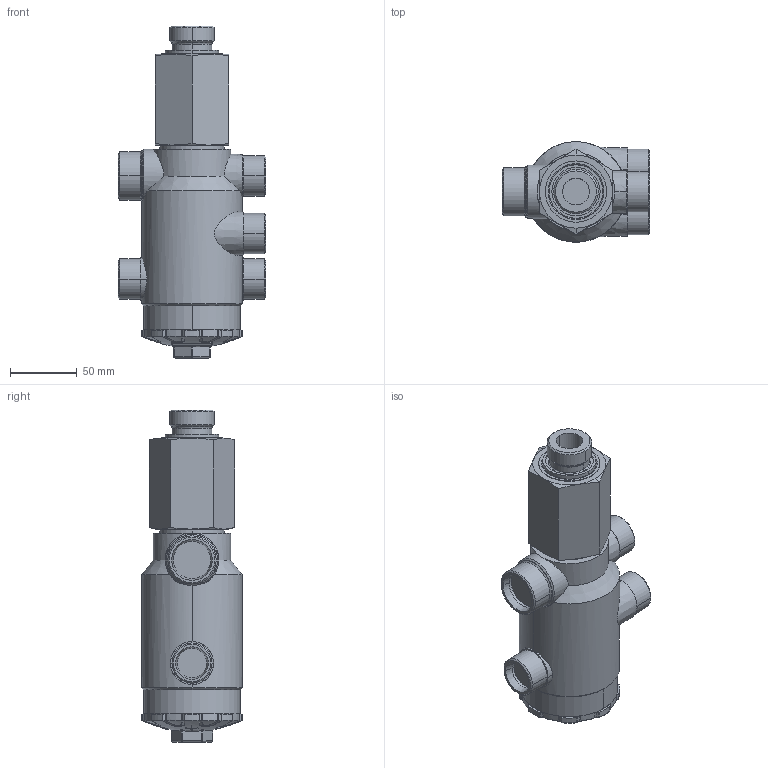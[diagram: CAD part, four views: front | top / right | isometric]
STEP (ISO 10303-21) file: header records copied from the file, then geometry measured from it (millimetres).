
FILE_DESCRIPTION((''),'2;1');
FILE_NAME('MFE_200-02_13709900_','2024-08-30T08:25:48',('a.heinl'),(''),'CREO PARAMETRIC BY PTC INC, 2023254','CREO PARAMETRIC BY PTC INC, 2023254','');
FILE_SCHEMA(('AUTOMOTIVE_DESIGN { 1 0 10303 214 1 1 1 1 }'));
Length unit declared in the file: millimetre
Products named in the file (1): MFE_200-02_13709900_
Bounding box: 110 x 75 x 247.95 mm (x, y, z)
Volume: 854302.1 mm3; surface area: 75885.8 mm2
Topology: 1 solids, 2 shells, 750 faces, 1889 edges, 1177 vertices
Faces by surface type: plane 264, bspline 214, cylinder 110, cone 84, torus 55, extrusion 15, sphere 8
Entity records: 37898 total; most frequent: CARTESIAN_POINT 16899, ORIENTED_EDGE 3762, DIRECTION 2289, PRESENTATION_STYLE_ASSIGNMENT 1882, STYLED_ITEM 1882, CURVE_STYLE 1881, EDGE_CURVE 1881, VERTEX_POINT 1177
